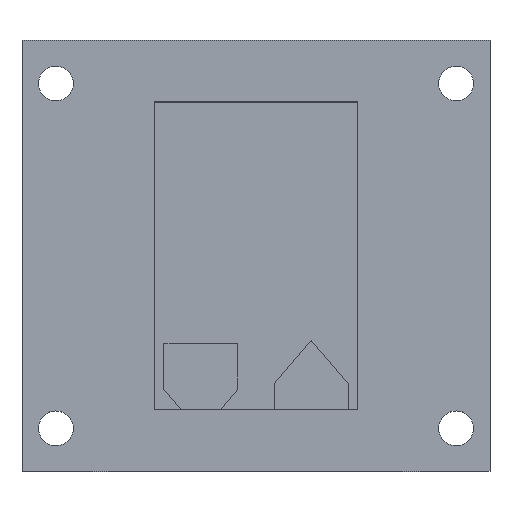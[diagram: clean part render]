
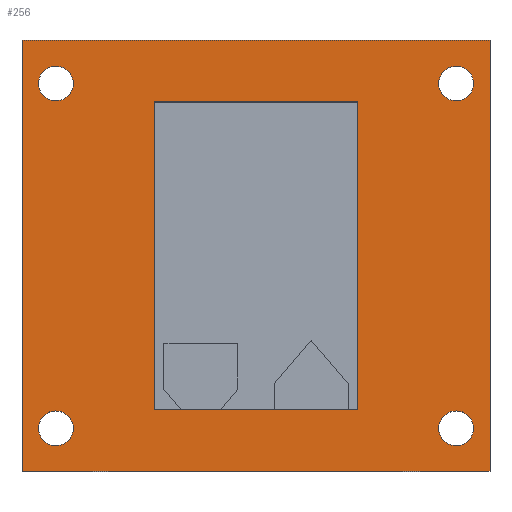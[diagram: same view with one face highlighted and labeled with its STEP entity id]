
A CAD part, top view. The second image highlights one B-rep face of the part: STEP entity #256.
In plain terms, the highlighted planar face has unit normal (0, 0, 1).
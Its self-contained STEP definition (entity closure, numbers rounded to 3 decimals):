
#256 = ADVANCED_FACE( '', ( #529, #530, #531, #532, #533, #534 ), #535, .F. );
#529 = FACE_BOUND( '', #807, .T. );
#530 = FACE_BOUND( '', #808, .T. );
#531 = FACE_BOUND( '', #809, .T. );
#532 = FACE_BOUND( '', #810, .T. );
#533 = FACE_BOUND( '', #811, .T. );
#534 = FACE_OUTER_BOUND( '', #812, .T. );
#535 = PLANE( '', #813 );
#807 = EDGE_LOOP( '', ( #1547 ) );
#808 = EDGE_LOOP( '', ( #1548 ) );
#809 = EDGE_LOOP( '', ( #1549 ) );
#810 = EDGE_LOOP( '', ( #1550 ) );
#811 = EDGE_LOOP( '', ( #1551, #1552, #1553, #1554 ) );
#812 = EDGE_LOOP( '', ( #1555, #1556, #1557, #1558 ) );
#813 = AXIS2_PLACEMENT_3D( '', #1559, #1560, #1561 );
#1547 = ORIENTED_EDGE( '', *, *, #1726, .F. );
#1548 = ORIENTED_EDGE( '', *, *, #1665, .F. );
#1549 = ORIENTED_EDGE( '', *, *, #1878, .F. );
#1550 = ORIENTED_EDGE( '', *, *, #1826, .F. );
#1551 = ORIENTED_EDGE( '', *, *, #1875, .F. );
#1552 = ORIENTED_EDGE( '', *, *, #1944, .F. );
#1553 = ORIENTED_EDGE( '', *, *, #1840, .F. );
#1554 = ORIENTED_EDGE( '', *, *, #1822, .F. );
#1555 = ORIENTED_EDGE( '', *, *, #1885, .T. );
#1556 = ORIENTED_EDGE( '', *, *, #1926, .F. );
#1557 = ORIENTED_EDGE( '', *, *, #1702, .F. );
#1558 = ORIENTED_EDGE( '', *, *, #1898, .T. );
#1559 = CARTESIAN_POINT( '', ( -5.5, 63., 0. ) );
#1560 = DIRECTION( '', ( 0., 0., -1. ) );
#1561 = DIRECTION( '', ( -1., 0., 0. ) );
#1665 = EDGE_CURVE( '', #2001, #2001, #2002, .T. );
#1702 = EDGE_CURVE( '', #2067, #2069, #2070, .T. );
#1726 = EDGE_CURVE( '', #2111, #2111, #2112, .T. );
#1822 = EDGE_CURVE( '', #2251, #2253, #2254, .T. );
#1826 = EDGE_CURVE( '', #2259, #2259, #2260, .T. );
#1840 = EDGE_CURVE( '', #2253, #2280, #2281, .T. );
#1875 = EDGE_CURVE( '', #2330, #2251, #2332, .T. );
#1878 = EDGE_CURVE( '', #2335, #2335, #2336, .T. );
#1885 = EDGE_CURVE( '', #2345, #2343, #2346, .T. );
#1898 = EDGE_CURVE( '', #2067, #2345, #2362, .T. );
#1926 = EDGE_CURVE( '', #2069, #2343, #2396, .T. );
#1944 = EDGE_CURVE( '', #2280, #2330, #2415, .T. );
#2001 = VERTEX_POINT( '', #2493 );
#2002 = CIRCLE( '', #2494, 2.827 );
#2067 = VERTEX_POINT( '', #2590 );
#2069 = VERTEX_POINT( '', #2593 );
#2070 = LINE( '', #2594, #2595 );
#2111 = VERTEX_POINT( '', #2656 );
#2112 = CIRCLE( '', #2657, 2.827 );
#2251 = VERTEX_POINT( '', #2863 );
#2253 = VERTEX_POINT( '', #2866 );
#2254 = LINE( '', #2867, #2868 );
#2259 = VERTEX_POINT( '', #2875 );
#2260 = CIRCLE( '', #2876, 2.827 );
#2280 = VERTEX_POINT( '', #2904 );
#2281 = LINE( '', #2905, #2906 );
#2330 = VERTEX_POINT( '', #2978 );
#2332 = LINE( '', #2981, #2982 );
#2335 = VERTEX_POINT( '', #2986 );
#2336 = CIRCLE( '', #2987, 2.827 );
#2343 = VERTEX_POINT( '', #2997 );
#2345 = VERTEX_POINT( '', #3000 );
#2346 = LINE( '', #3001, #3002 );
#2362 = LINE( '', #3026, #3027 );
#2396 = LINE( '', #3079, #3080 );
#2415 = LINE( '', #3107, #3108 );
#2493 = CARTESIAN_POINT( '', ( 2.827, 0., 0. ) );
#2494 = AXIS2_PLACEMENT_3D( '', #3141, #3142, #3143 );
#2590 = CARTESIAN_POINT( '', ( -5.5, 63., 0. ) );
#2593 = CARTESIAN_POINT( '', ( 70.5, 63., 0. ) );
#2594 = CARTESIAN_POINT( '', ( -5.5, 63., 0. ) );
#2595 = VECTOR( '', #3179, 1000. );
#2656 = CARTESIAN_POINT( '', ( 67.827, 56., 0. ) );
#2657 = AXIS2_PLACEMENT_3D( '', #3200, #3201, #3202 );
#2863 = CARTESIAN_POINT( '', ( 49., 3., 0. ) );
#2866 = CARTESIAN_POINT( '', ( 49., 53., 0. ) );
#2867 = CARTESIAN_POINT( '', ( 49., 3., 0. ) );
#2868 = VECTOR( '', #3274, 1000. );
#2875 = CARTESIAN_POINT( '', ( 2.827, 56., 0. ) );
#2876 = AXIS2_PLACEMENT_3D( '', #3277, #3278, #3279 );
#2904 = CARTESIAN_POINT( '', ( 16., 53., 0. ) );
#2905 = CARTESIAN_POINT( '', ( 49., 53., 0. ) );
#2906 = VECTOR( '', #3291, 1000. );
#2978 = CARTESIAN_POINT( '', ( 16., 3., 0. ) );
#2981 = CARTESIAN_POINT( '', ( 16., 3., 0. ) );
#2982 = VECTOR( '', #3319, 1000. );
#2986 = CARTESIAN_POINT( '', ( 67.827, 0., 0. ) );
#2987 = AXIS2_PLACEMENT_3D( '', #3321, #3322, #3323 );
#2997 = CARTESIAN_POINT( '', ( 70.5, -7., 0. ) );
#3000 = CARTESIAN_POINT( '', ( -5.5, -7., 0. ) );
#3001 = CARTESIAN_POINT( '', ( -5.5, -7., 0. ) );
#3002 = VECTOR( '', #3328, 1000. );
#3026 = CARTESIAN_POINT( '', ( -5.5, 63., 0. ) );
#3027 = VECTOR( '', #3337, 1000. );
#3079 = CARTESIAN_POINT( '', ( 70.5, 63., 0. ) );
#3080 = VECTOR( '', #3356, 1000. );
#3107 = CARTESIAN_POINT( '', ( 16., 53., 0. ) );
#3108 = VECTOR( '', #3365, 1000. );
#3141 = CARTESIAN_POINT( '', ( 0., 0., 0. ) );
#3142 = DIRECTION( '', ( 0., 0., 1. ) );
#3143 = DIRECTION( '', ( 1., 0., 0. ) );
#3179 = DIRECTION( '', ( 1., 0., 0. ) );
#3200 = CARTESIAN_POINT( '', ( 65., 56., 0. ) );
#3201 = DIRECTION( '', ( 0., 0., 1. ) );
#3202 = DIRECTION( '', ( 1., 0., 0. ) );
#3274 = DIRECTION( '', ( 0., 1., 0. ) );
#3277 = CARTESIAN_POINT( '', ( 0., 56., 0. ) );
#3278 = DIRECTION( '', ( 0., 0., 1. ) );
#3279 = DIRECTION( '', ( 1., 0., 0. ) );
#3291 = DIRECTION( '', ( -1., 0., 0. ) );
#3319 = DIRECTION( '', ( 1., 0., 0. ) );
#3321 = CARTESIAN_POINT( '', ( 65., 0., 0. ) );
#3322 = DIRECTION( '', ( 0., 0., 1. ) );
#3323 = DIRECTION( '', ( 1., 0., 0. ) );
#3328 = DIRECTION( '', ( 1., 0., 0. ) );
#3337 = DIRECTION( '', ( 0., -1., 0. ) );
#3356 = DIRECTION( '', ( 0., -1., 0. ) );
#3365 = DIRECTION( '', ( 0., -1., 0. ) );
